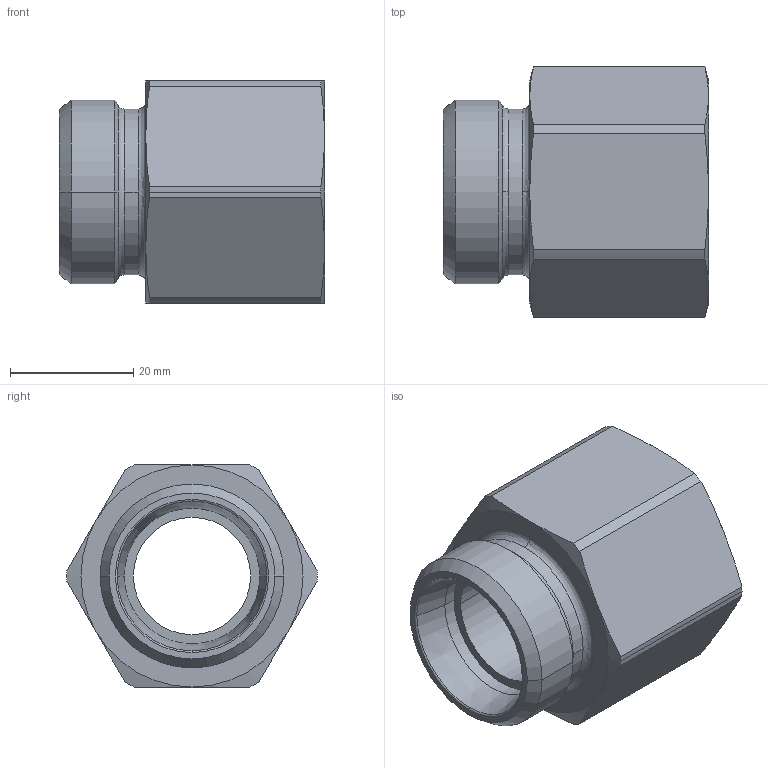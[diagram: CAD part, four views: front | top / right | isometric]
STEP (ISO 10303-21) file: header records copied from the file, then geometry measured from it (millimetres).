
FILE_DESCRIPTION((''),'2;1');
FILE_NAME('100710.stp','2007-10-30T15:13:30',(''),(''),'AutoCAD STEP 2000i','AutoCAD 2000i',', , ');
FILE_SCHEMA(('CONFIG_CONTROL_DESIGN'));
Length unit declared in the file: millimetre
Products named in the file (2): 100710.0; CHIAVE SMUSSATA#0
Assembly tree (1 placements, depth 2):
  100710.0
    CHIAVE SMUSSATA#0
Bounding box: 43 x 40.6 x 36 mm (x, y, z)
Volume: 24135.7 mm3; surface area: 9343.7 mm2
Topology: 1 solids, 1 shells, 56 faces, 134 edges, 82 vertices
Faces by surface type: cone 22, cylinder 18, plane 10, bspline 4, torus 2
Entity records: 1887 total; most frequent: CARTESIAN_POINT 498, DIRECTION 294, ORIENTED_EDGE 268, EDGE_CURVE 134, AXIS2_PLACEMENT_3D 130, VERTEX_POINT 82, CIRCLE 76, EDGE_LOOP 60
